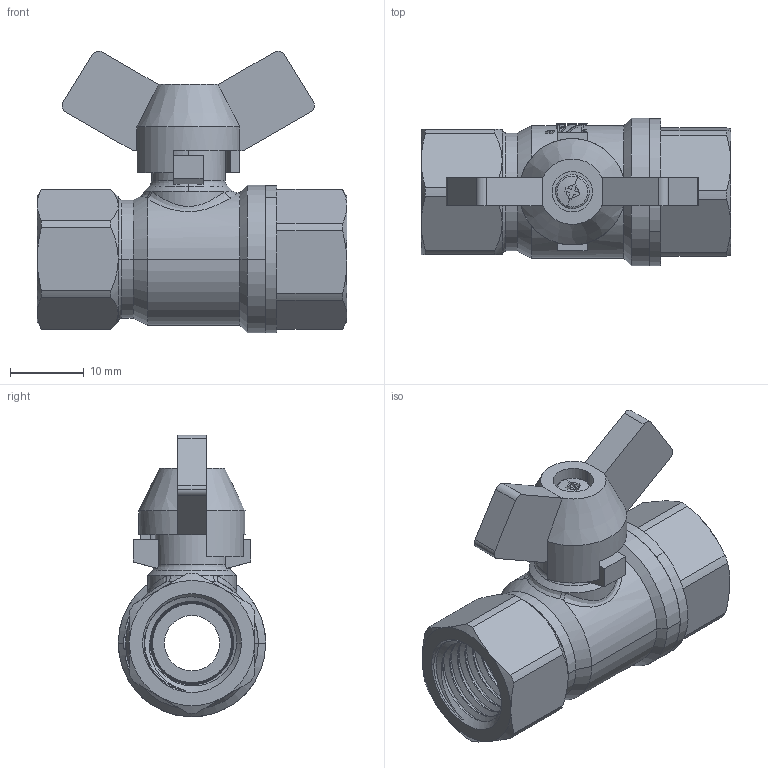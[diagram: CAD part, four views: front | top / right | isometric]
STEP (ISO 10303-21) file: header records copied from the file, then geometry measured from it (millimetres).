
FILE_DESCRIPTION(('Open CASCADE Model'),'2;1');
FILE_NAME('Open CASCADE Shape Model','2021-12-15T12:37:52',('Author'),( 'Open CASCADE'),'Open CASCADE STEP processor 7.3','Open CASCADE 7.3' ,'Unknown');
FILE_SCHEMA(('AUTOMOTIVE_DESIGN { 1 0 10303 214 1 1 1 1 }'));
Length unit declared in the file: millimetre
Products named in the file (11): Open CASCADE STEP translator 7.3 1; Open CASCADE STEP translator 7.3 1.1; Open CASCADE STEP translator 7.3 1.2; Open CASCADE STEP translator 7.3 1.3; Open CASCADE STEP translator 7.3 1.4; Open CASCADE STEP translator 7.3 1.5; Open CASCADE STEP translator 7.3 1.6; Open CASCADE STEP translator 7.3 1.7; Open CASCADE STEP translator 7.3 1.8; Open CASCADE STEP translator 7.3 1.9; Open CASCADE STEP translator 7.3 1.10
Assembly tree (10 placements, depth 2):
  Open CASCADE STEP translator 7.3 1
    Open CASCADE STEP translator 7.3 1.1
    Open CASCADE STEP translator 7.3 1.2
    Open CASCADE STEP translator 7.3 1.3
    Open CASCADE STEP translator 7.3 1.4
    Open CASCADE STEP translator 7.3 1.5
    Open CASCADE STEP translator 7.3 1.6
    Open CASCADE STEP translator 7.3 1.7
    Open CASCADE STEP translator 7.3 1.8
    Open CASCADE STEP translator 7.3 1.9
    Open CASCADE STEP translator 7.3 1.10
Bounding box: 42 x 20 x 38.21 mm (x, y, z)
Volume: 9156.8 mm3; surface area: 10111.4 mm2
Topology: 10 solids, 10 shells, 537 faces, 1377 edges, 883 vertices
Faces by surface type: cylinder 156, plane 149, bspline 102, cone 86, torus 34, sphere 6, revolution 4
Entity records: 87522 total; most frequent: CARTESIAN_POINT 63171, DIRECTION 3544, ORIENTED_EDGE 2746, PCURVE 2746, DEFINITIONAL_REPRESENTATION 2746, LINE 1789, VECTOR 1789, B_SPLINE_CURVE_WITH_KNOTS 1594
